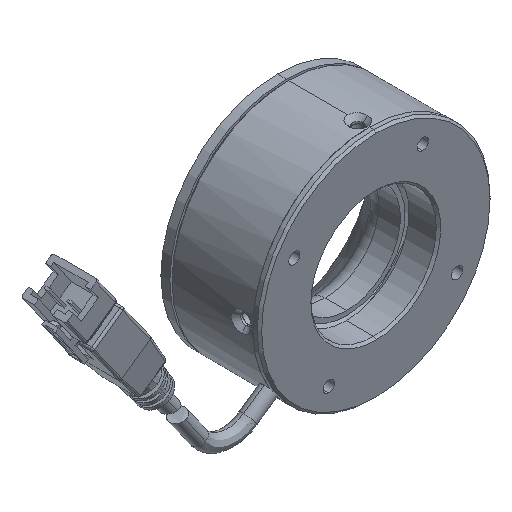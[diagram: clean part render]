
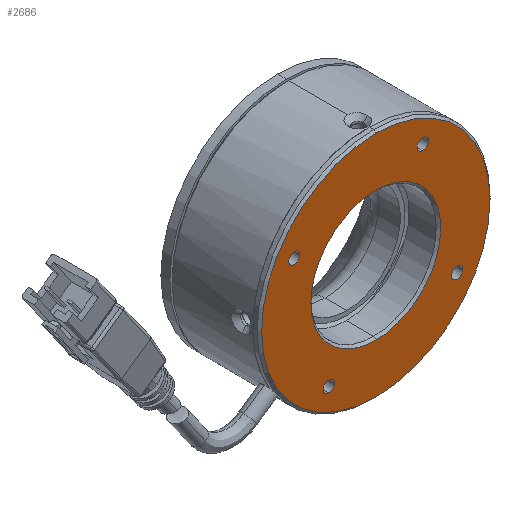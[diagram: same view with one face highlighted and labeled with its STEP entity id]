
A CAD part, isometric view. The second image highlights one B-rep face of the part: STEP entity #2686.
In plain terms, the highlighted planar face has unit normal (0, -1, 0).
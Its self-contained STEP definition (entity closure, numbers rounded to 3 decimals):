
#219 = EDGE_LOOP ( 'NONE', ( #1203, #2425 ) ) ;
#266 = EDGE_CURVE ( 'NONE', #9897, #3281, #9466, .T. ) ;
#325 = CARTESIAN_POINT ( 'NONE',  ( 18.187, 0., -10.5 ) ) ;
#438 = VERTEX_POINT ( 'NONE', #6712 ) ;
#494 = EDGE_CURVE ( 'NONE', #3519, #438, #9685, .T. ) ;
#496 = CARTESIAN_POINT ( 'NONE',  ( 16.937, 0., -10.5 ) ) ;
#604 = DIRECTION ( 'NONE',  ( 0., 0., 1. ) ) ;
#650 = CIRCLE ( 'NONE', #7623, 1.25 ) ;
#807 = ORIENTED_EDGE ( 'NONE', *, *, #266, .F. ) ;
#896 = AXIS2_PLACEMENT_3D ( 'NONE', #10571, #6407, #10203 ) ;
#1059 = AXIS2_PLACEMENT_3D ( 'NONE', #7088, #6168, #5348 ) ;
#1089 = DIRECTION ( 'NONE',  ( 0., -1., 0. ) ) ;
#1130 = CARTESIAN_POINT ( 'NONE',  ( -18.187, 0., 10.5 ) ) ;
#1153 = CARTESIAN_POINT ( 'NONE',  ( 0., 0., 0. ) ) ;
#1203 = ORIENTED_EDGE ( 'NONE', *, *, #8493, .F. ) ;
#1246 = CIRCLE ( 'NONE', #11621, 14.5 ) ;
#1278 = FACE_OUTER_BOUND ( 'NONE', #1737, .T. ) ;
#1282 = DIRECTION ( 'NONE',  ( 0., 0., 1. ) ) ;
#1313 = ORIENTED_EDGE ( 'NONE', *, *, #9578, .T. ) ;
#1563 = AXIS2_PLACEMENT_3D ( 'NONE', #5164, #11782, #1282 ) ;
#1737 = EDGE_LOOP ( 'NONE', ( #9387, #807 ) ) ;
#1745 = CARTESIAN_POINT ( 'NONE',  ( 0., 0., -25.5 ) ) ;
#2061 = DIRECTION ( 'NONE',  ( 0., -1., 0. ) ) ;
#2212 = DIRECTION ( 'NONE',  ( 0., 0., -1. ) ) ;
#2409 = ORIENTED_EDGE ( 'NONE', *, *, #9674, .F. ) ;
#2425 = ORIENTED_EDGE ( 'NONE', *, *, #7826, .F. ) ;
#2534 = VERTEX_POINT ( 'NONE', #11165 ) ;
#2686 = ADVANCED_FACE ( 'NONE', ( #2787, #5662, #9462, #11653, #5028, #1278 ), #3027, .T. ) ;
#2757 = DIRECTION ( 'NONE',  ( 0., 1., 0. ) ) ;
#2758 = CIRCLE ( 'NONE', #1563, 25.5 ) ;
#2782 = EDGE_CURVE ( 'NONE', #4465, #10879, #8525, .T. ) ;
#2787 = FACE_BOUND ( 'NONE', #6348, .T. ) ;
#2896 = DIRECTION ( 'NONE',  ( 0., 0., -1. ) ) ;
#3027 = PLANE ( 'NONE',  #12120 ) ;
#3070 = DIRECTION ( 'NONE',  ( 0., -1., 0. ) ) ;
#3281 = VERTEX_POINT ( 'NONE', #7931 ) ;
#3519 = VERTEX_POINT ( 'NONE', #10743 ) ;
#3723 = VERTEX_POINT ( 'NONE', #3782 ) ;
#3782 = CARTESIAN_POINT ( 'NONE',  ( 0., 0., 14.5 ) ) ;
#3828 = EDGE_CURVE ( 'NONE', #3281, #9897, #2758, .T. ) ;
#3957 = DIRECTION ( 'NONE',  ( 0., 1., 0. ) ) ;
#4017 = CARTESIAN_POINT ( 'NONE',  ( -10.5, 0., -18.187 ) ) ;
#4068 = CIRCLE ( 'NONE', #896, 1.25 ) ;
#4132 = DIRECTION ( 'NONE',  ( 1., 0., 0. ) ) ;
#4143 = DIRECTION ( 'NONE',  ( -1., 0., 0. ) ) ;
#4249 = AXIS2_PLACEMENT_3D ( 'NONE', #325, #3070, #4132 ) ;
#4465 = VERTEX_POINT ( 'NONE', #9772 ) ;
#4848 = CIRCLE ( 'NONE', #4249, 1.25 ) ;
#4899 = CIRCLE ( 'NONE', #10093, 14.5 ) ;
#4961 = DIRECTION ( 'NONE',  ( 0., 0., 1. ) ) ;
#4965 = DIRECTION ( 'NONE',  ( 0., -1., 0. ) ) ;
#5020 = CARTESIAN_POINT ( 'NONE',  ( 0., 0., 0. ) ) ;
#5028 = FACE_BOUND ( 'NONE', #5316, .T. ) ;
#5141 = AXIS2_PLACEMENT_3D ( 'NONE', #9714, #4965, #4143 ) ;
#5164 = CARTESIAN_POINT ( 'NONE',  ( 0., 0., 0. ) ) ;
#5307 = VERTEX_POINT ( 'NONE', #12302 ) ;
#5316 = EDGE_LOOP ( 'NONE', ( #1313, #6238 ) ) ;
#5348 = DIRECTION ( 'NONE',  ( 0., 0., 1. ) ) ;
#5662 = FACE_BOUND ( 'NONE', #7061, .T. ) ;
#5786 = DIRECTION ( 'NONE',  ( 0., 0., 1. ) ) ;
#5906 = AXIS2_PLACEMENT_3D ( 'NONE', #9591, #1089, #4961 ) ;
#6092 = EDGE_CURVE ( 'NONE', #7730, #10655, #650, .T. ) ;
#6144 = EDGE_CURVE ( 'NONE', #3723, #5307, #1246, .T. ) ;
#6168 = DIRECTION ( 'NONE',  ( 0., -1., 0. ) ) ;
#6199 = ORIENTED_EDGE ( 'NONE', *, *, #11775, .F. ) ;
#6238 = ORIENTED_EDGE ( 'NONE', *, *, #6144, .T. ) ;
#6348 = EDGE_LOOP ( 'NONE', ( #2409, #11542 ) ) ;
#6407 = DIRECTION ( 'NONE',  ( 0., -1., 0. ) ) ;
#6712 = CARTESIAN_POINT ( 'NONE',  ( 10.5, 0., 16.937 ) ) ;
#7061 = EDGE_LOOP ( 'NONE', ( #8916, #8145 ) ) ;
#7088 = CARTESIAN_POINT ( 'NONE',  ( 10.5, 0., 18.187 ) ) ;
#7289 = AXIS2_PLACEMENT_3D ( 'NONE', #1130, #2061, #8623 ) ;
#7372 = DIRECTION ( 'NONE',  ( 0., 0., -1. ) ) ;
#7455 = CARTESIAN_POINT ( 'NONE',  ( 0., 0., 0. ) ) ;
#7492 = CARTESIAN_POINT ( 'NONE',  ( 0., 0., 0. ) ) ;
#7604 = EDGE_CURVE ( 'NONE', #438, #3519, #9641, .T. ) ;
#7623 = AXIS2_PLACEMENT_3D ( 'NONE', #4017, #9644, #2896 ) ;
#7730 = VERTEX_POINT ( 'NONE', #12202 ) ;
#7826 = EDGE_CURVE ( 'NONE', #8729, #2534, #4848, .T. ) ;
#7931 = CARTESIAN_POINT ( 'NONE',  ( 0., 0., 25.5 ) ) ;
#8145 = ORIENTED_EDGE ( 'NONE', *, *, #7604, .F. ) ;
#8235 = CARTESIAN_POINT ( 'NONE',  ( -10.5, 0., -18.187 ) ) ;
#8493 = EDGE_CURVE ( 'NONE', #2534, #8729, #4068, .T. ) ;
#8525 = CIRCLE ( 'NONE', #5141, 1.25 ) ;
#8623 = DIRECTION ( 'NONE',  ( -1., 0., 0. ) ) ;
#8678 = CARTESIAN_POINT ( 'NONE',  ( -19.437, 0., 10.5 ) ) ;
#8693 = CIRCLE ( 'NONE', #7289, 1.25 ) ;
#8729 = VERTEX_POINT ( 'NONE', #496 ) ;
#8916 = ORIENTED_EDGE ( 'NONE', *, *, #494, .F. ) ;
#8938 = AXIS2_PLACEMENT_3D ( 'NONE', #8235, #9300, #7372 ) ;
#9116 = EDGE_LOOP ( 'NONE', ( #10216, #6199 ) ) ;
#9141 = CIRCLE ( 'NONE', #8938, 1.25 ) ;
#9246 = DIRECTION ( 'NONE',  ( 0., 0., 1. ) ) ;
#9300 = DIRECTION ( 'NONE',  ( 0., -1., 0. ) ) ;
#9387 = ORIENTED_EDGE ( 'NONE', *, *, #3828, .F. ) ;
#9462 = FACE_BOUND ( 'NONE', #219, .T. ) ;
#9466 = CIRCLE ( 'NONE', #11070, 25.5 ) ;
#9578 = EDGE_CURVE ( 'NONE', #5307, #3723, #4899, .T. ) ;
#9591 = CARTESIAN_POINT ( 'NONE',  ( 10.5, 0., 18.187 ) ) ;
#9641 = CIRCLE ( 'NONE', #1059, 1.25 ) ;
#9644 = DIRECTION ( 'NONE',  ( 0., -1., 0. ) ) ;
#9674 = EDGE_CURVE ( 'NONE', #10879, #4465, #8693, .T. ) ;
#9685 = CIRCLE ( 'NONE', #5906, 1.25 ) ;
#9714 = CARTESIAN_POINT ( 'NONE',  ( -18.187, 0., 10.5 ) ) ;
#9772 = CARTESIAN_POINT ( 'NONE',  ( -16.937, 0., 10.5 ) ) ;
#9897 = VERTEX_POINT ( 'NONE', #1745 ) ;
#10093 = AXIS2_PLACEMENT_3D ( 'NONE', #7492, #2757, #9246 ) ;
#10203 = DIRECTION ( 'NONE',  ( 1., 0., 0. ) ) ;
#10216 = ORIENTED_EDGE ( 'NONE', *, *, #6092, .F. ) ;
#10379 = CARTESIAN_POINT ( 'NONE',  ( -10.5, 0., -16.937 ) ) ;
#10571 = CARTESIAN_POINT ( 'NONE',  ( 18.187, 0., -10.5 ) ) ;
#10655 = VERTEX_POINT ( 'NONE', #10379 ) ;
#10743 = CARTESIAN_POINT ( 'NONE',  ( 10.5, 0., 19.437 ) ) ;
#10783 = DIRECTION ( 'NONE',  ( 0., -1., 0. ) ) ;
#10879 = VERTEX_POINT ( 'NONE', #8678 ) ;
#11070 = AXIS2_PLACEMENT_3D ( 'NONE', #7455, #12090, #604 ) ;
#11165 = CARTESIAN_POINT ( 'NONE',  ( 19.437, 0., -10.5 ) ) ;
#11542 = ORIENTED_EDGE ( 'NONE', *, *, #2782, .F. ) ;
#11621 = AXIS2_PLACEMENT_3D ( 'NONE', #5020, #3957, #5786 ) ;
#11653 = FACE_BOUND ( 'NONE', #9116, .T. ) ;
#11775 = EDGE_CURVE ( 'NONE', #10655, #7730, #9141, .T. ) ;
#11782 = DIRECTION ( 'NONE',  ( 0., 1., 0. ) ) ;
#12090 = DIRECTION ( 'NONE',  ( 0., 1., 0. ) ) ;
#12120 = AXIS2_PLACEMENT_3D ( 'NONE', #1153, #10783, #2212 ) ;
#12202 = CARTESIAN_POINT ( 'NONE',  ( -10.5, 0., -19.437 ) ) ;
#12302 = CARTESIAN_POINT ( 'NONE',  ( 0., 0., -14.5 ) ) ;
